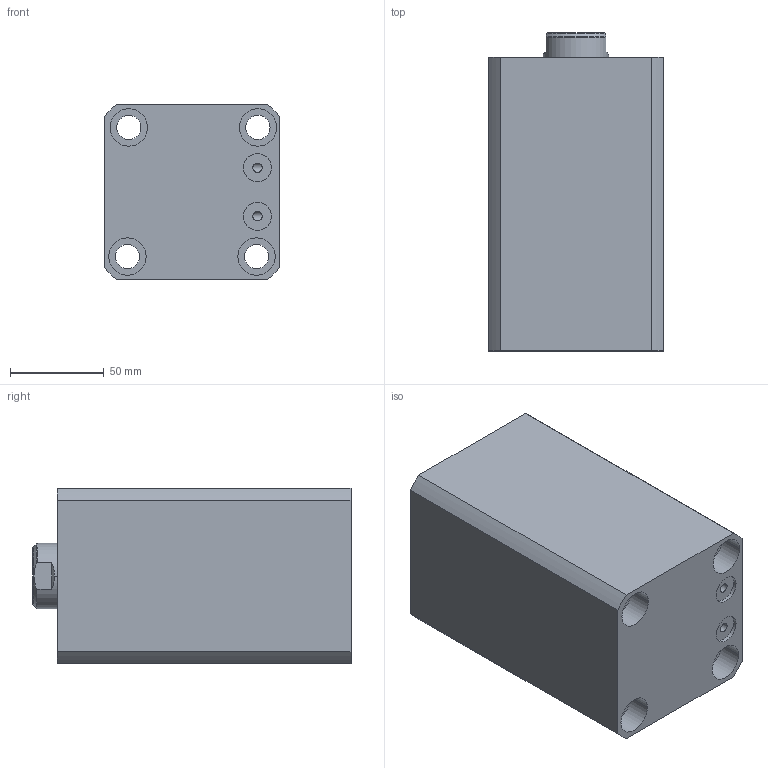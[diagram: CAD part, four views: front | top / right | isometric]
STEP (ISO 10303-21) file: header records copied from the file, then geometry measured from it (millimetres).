
FILE_DESCRIPTION (( 'STEP AP214' ), '1' );
FILE_NAME ('chtb-sdmb63x90n_asm.STEP', '2018-05-16T06:53:51', ( 'Windows' ), ( 'Microsoft' ), 'SwSTEP 2.0', 'SolidWorks 2015', '' );
FILE_SCHEMA (( 'AUTOMOTIVE_DESIGN' ));
Length unit declared in the file: millimetre
Products named in the file (4): CHTB-SDMB63X90NBT; CHTB-63QG; CHTB63X90NHSG; chtb-sdmb63x90n_asm
Assembly tree (3 placements, depth 2):
  chtb-sdmb63x90n_asm
    CHTB63X90NHSG
    CHTB-63QG
    CHTB-SDMB63X90NBT
Bounding box: 94 x 170 x 94 mm (x, y, z)
Volume: 1077759.2 mm3; surface area: 179013.7 mm2
Topology: 3 solids, 3 shells, 164 faces, 468 edges, 318 vertices
Faces by surface type: cylinder 107, plane 30, bspline 12, cone 8, torus 7
Entity records: 17708 total; most frequent: CARTESIAN_POINT 13594, ORIENTED_EDGE 924, DIRECTION 707, EDGE_CURVE 462, VERTEX_POINT 318, AXIS2_PLACEMENT_3D 284, EDGE_LOOP 196, ADVANCED_FACE 164
